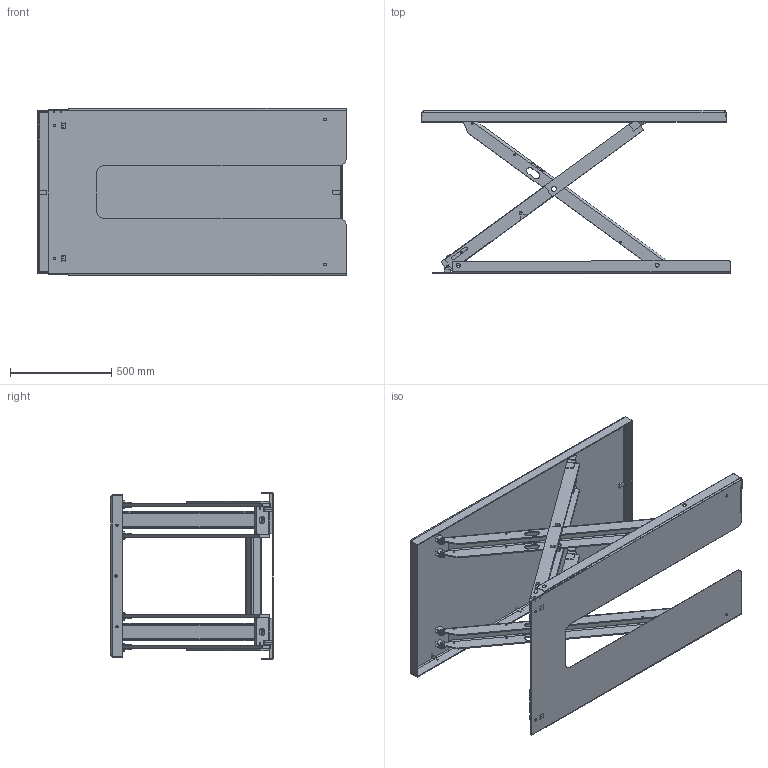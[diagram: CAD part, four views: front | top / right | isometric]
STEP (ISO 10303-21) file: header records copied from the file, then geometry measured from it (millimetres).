
FILE_DESCRIPTION(/* description */ ('Base plate'),/* implementation_level */ '2;1');
FILE_NAME(/* name */ 'C:\Autodesk_VaultWork\Ritningar\Exporterade modeller\CCB 1000 - (22005)\22005_Elevated.stp',/* time_stamp */ '2017-01-31T10:06:57+01:00',/* author */ ('JOHSO'),/* organization */ (''),/* preprocessor_version */ 'ST-DEVELOPER v16.5',/* originating_system */ 'Autodesk Inventor 2017',/* authorisation */ '');
FILE_SCHEMA (('AUTOMOTIVE_DESIGN { 1 0 10303 214 3 1 1 }'));
Length unit declared in the file: millimetre
Products named in the file (20): 22005_Elevated; 35372; 35373; 44843; K22645H; 33206; 33214; 33215; 42949C; 43352; 517433; 34750; 32497; 32473; 514471; 33248-4; 84207; 44572; 45087; 609872
Assembly tree (47 placements, depth 3):
  22005_Elevated
    35372
      35373
      44843  x4
      K22645H  x2
    33206
      33214  x2
      33215  x2
      517433  x2
      42949C  x8
      43352
    34750  x2
      32497
    32473
      514471
      33248-4  x8
      84207  x4
      44572  x2
      45087  x2
    609872  x2
Bounding box: 1520.81 x 800.63 x 823.41 mm (x, y, z)
Volume: 20356646.8 mm3; surface area: 7258939.5 mm2
Topology: 43 solids, 43 shells, 1270 faces, 3277 edges, 2109 vertices
Faces by surface type: plane 668, cylinder 558, cone 28, bspline 16
Full cylindrical faces by diameter (mm): 4.7 x2, 6 x4, 7.4 x6, 8.5 x4, 8.88 x4, 9.5 x4, 10 x8, 10.1 x4, 10.2 x2, 10.5 x12, 11 x6, 13 x4, 20 x4, 20.1 x4, 25.1 x2, 25.2 x2, 26 x4, 35 x2, 35.1 x4
Entity records: 22081 total; most frequent: CARTESIAN_POINT 5452, DIRECTION 3494, ORIENTED_EDGE 3198, EDGE_CURVE 1599, AXIS2_PLACEMENT_3D 1249, VERTEX_POINT 1065, LINE 996, VECTOR 996
